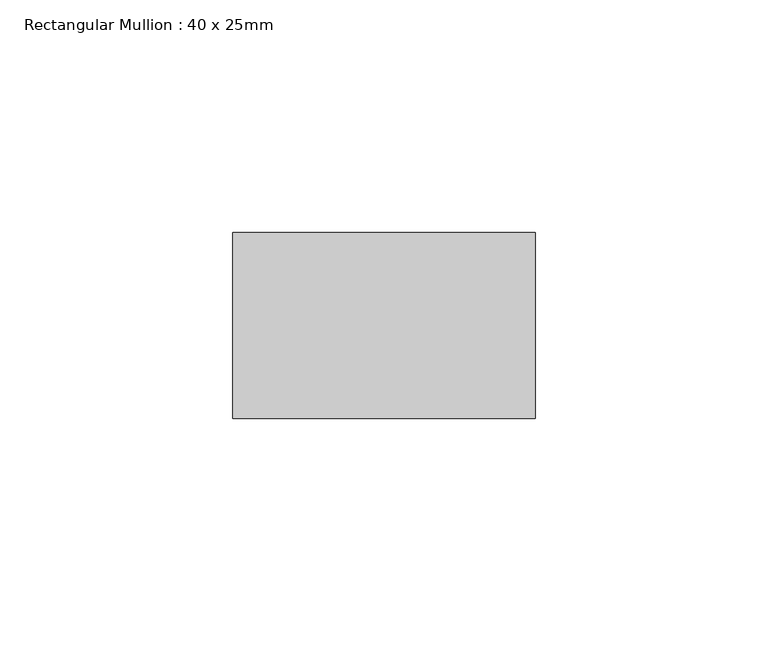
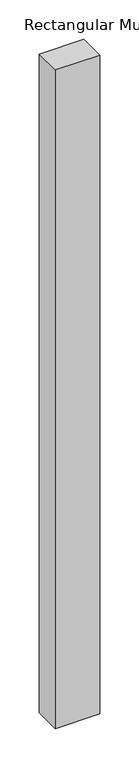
"""IFC4 building model written with IfcOpenShell, lengths in millimetres: member geometry, Rectangular Mullion : 40 x 25mm."""

from ifc_helpers import new_model, si_unit, frame, origin, place, context, project, spatial, polyline, outline, extrude, source, transform, mapped, element, save


def rectangular_mullion_40_x_25mm_b4ff80a0(model_context):
    return source(origin(), model_context, "Body", "SweptSolid", [
        extrude(outline(polyline([(0.0, -20.0), (0.0, -60.0), (-65.0, -60.0), (-65.0, -20.0), (0.0, -20.0)])), frame((0.0, 0.0, -1020.0), z_axis=(0.0, 0.0, 1.0), x_axis=(1.0, 0.0, 0.0)), (0.0, 0.0, 1.0), 1020.0),
    ])


if __name__ == "__main__":
    model = new_model("IFC4")
    model_context = context("Model", 3, world=origin())
    ifc_project = project(units=[si_unit("LENGTHUNIT", "METRE", prefix="MILLI")], contexts=[model_context])
    site = spatial("IfcSite", under=ifc_project)
    building = spatial("IfcBuilding", under=site)
    placement = place(None, origin())
    rectangular_mullion_40_x_25mm_shape = rectangular_mullion_40_x_25mm_b4ff80a0(model_context)
    element("IfcMember", 1, ObjectType="Rectangular Mullion : 40 x 25mm", at=placement, inside=building, context=model_context, shape_type="MappedRepresentation", body=[
        mapped(rectangular_mullion_40_x_25mm_shape, transform((0.0, 0.0, 0.0), x_axis=(1.0, 0.0, 0.0), y_axis=(0.0, 1.0, 0.0), z_axis=(0.0, 0.0, 1.0))),
    ])
    save(model, "model.ifc")
